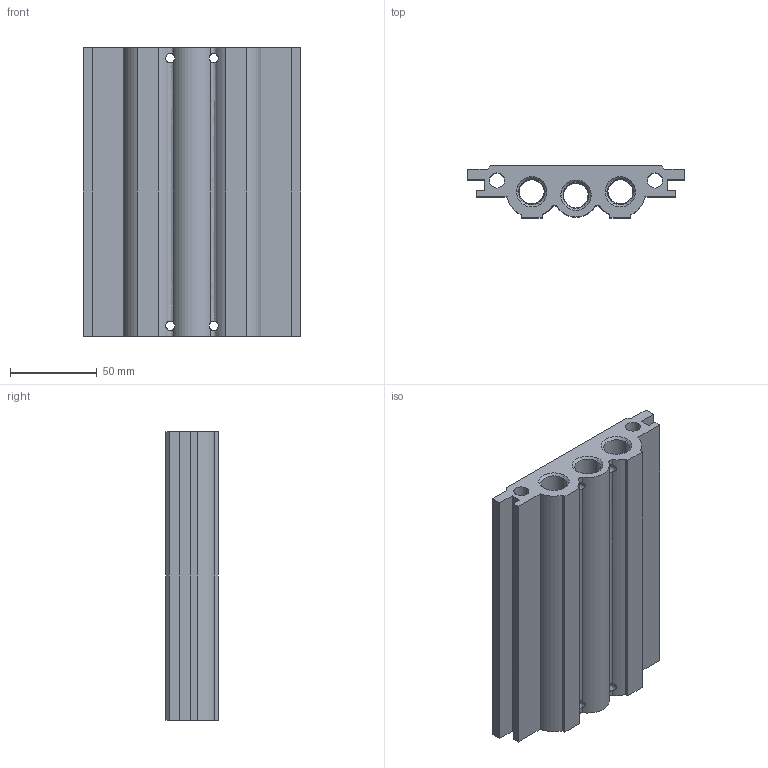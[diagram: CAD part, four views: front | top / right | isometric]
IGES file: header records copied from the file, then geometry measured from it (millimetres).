
Global section: file name: No Iges File Name specified; native system: AutoDesk Inventor R11.0; preprocessor: AutoDesk Inventor Iges Exporter R11.0; author: No Author specified; organization: No Organization specified; date: 20061201.115333; units: millimetre
Bounding box: 125 x 30 x 166 mm (x, y, z)
Volume: 341190 mm3; surface area: 97310.6 mm2
Topology: 1 solids, 1 shells, 229 faces, 603 edges, 398 vertices
Faces by surface type: bspline 168, revolution 28, plane 28, cylinder 5
